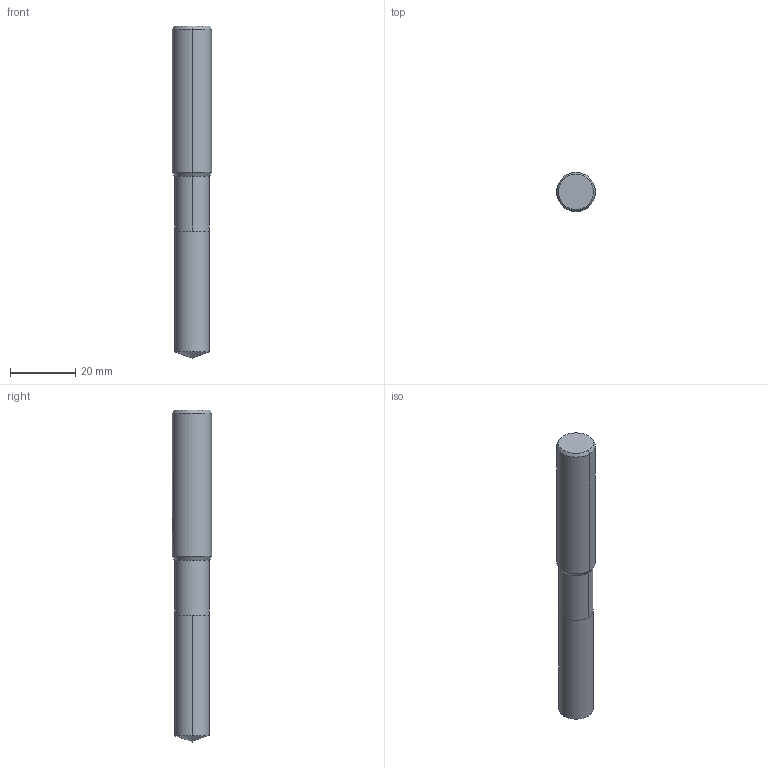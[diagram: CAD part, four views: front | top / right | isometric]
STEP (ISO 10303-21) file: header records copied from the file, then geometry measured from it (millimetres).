
FILE_DESCRIPTION(('no description'),'unknown implementation level');
FILE_NAME('solidLPUnVyYOgcZsLE9YFyMKvyXrRg8_1.STP',' ',('CIMSOURCE GmbH'),('CADClick - KiM GmbH - www.kimweb.de'),'unknown preprocess','ACIS','unknown authorization');
FILE_SCHEMA(('automotive_design'));
Length unit declared in the file: millimetre
Products named in the file (2): NOCUT; CUT
Bounding box: 12 x 12 x 102 mm (x, y, z)
Volume: 10009.2 mm3; surface area: 3908.3 mm2
Topology: 2 solids, 2 shells, 28 faces, 67 edges, 41 vertices
Faces by surface type: cylinder 14, plane 8, cone 6
Entity records: 1863 total; most frequent: CARTESIAN_POINT 420, DIRECTION 139, STYLED_ITEM 136, PRESENTATION_STYLE_ASSIGNMENT 136, COLOUR_RGB 136, ORIENTED_EDGE 130, EDGE_CURVE 65, CURVE_STYLE 65
